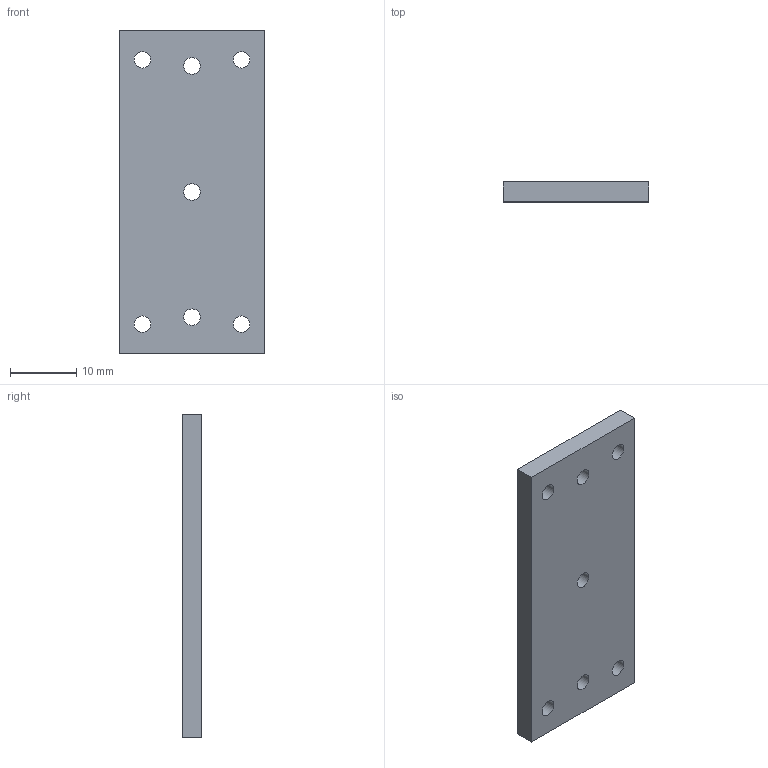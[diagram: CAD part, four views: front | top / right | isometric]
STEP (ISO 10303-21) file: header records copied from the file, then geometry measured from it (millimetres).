
FILE_DESCRIPTION(/* description */ (''),/* implementation_level */ '2;1');
FILE_NAME(/* name */ 'C:\Users\strothej\Documents\ActualDocuments\MicroscopeParts\TwoPhotonSystem\ScanningMechanics\v29\Drawings\Collection_Front_XFilter_Mount_Top.stp',/* time_stamp */ '2017-06-20T18:02:21-07:00',/* author */ ('strothej'),/* organization */ (''),/* preprocessor_version */ 'ST-DEVELOPER v16.1',/* originating_system */ 'Autodesk Inventor 2016',/* authorisation */ '');
FILE_SCHEMA (('AUTOMOTIVE_DESIGN { 1 0 10303 214 3 1 1 }'));
Length unit declared in the file: millimetre
Products named in the file (1): Collection_Front_XFilter_Mount_Top
Bounding box: 22 x 3 x 49 mm (x, y, z)
Volume: 3131.4 mm3; surface area: 2678.1 mm2
Topology: 1 solids, 1 shells, 13 faces, 40 edges, 29 vertices
Faces by surface type: cylinder 7, plane 6
Full cylindrical faces by diameter (mm): 2.459 x1, 2.5 x6
Entity records: 418 total; most frequent: DIRECTION 68, CARTESIAN_POINT 62, ORIENTED_EDGE 52, EDGE_LOOP 34, AXIS2_PLACEMENT_3D 28, EDGE_CURVE 26, VERTEX_POINT 22, FACE_BOUND 21
